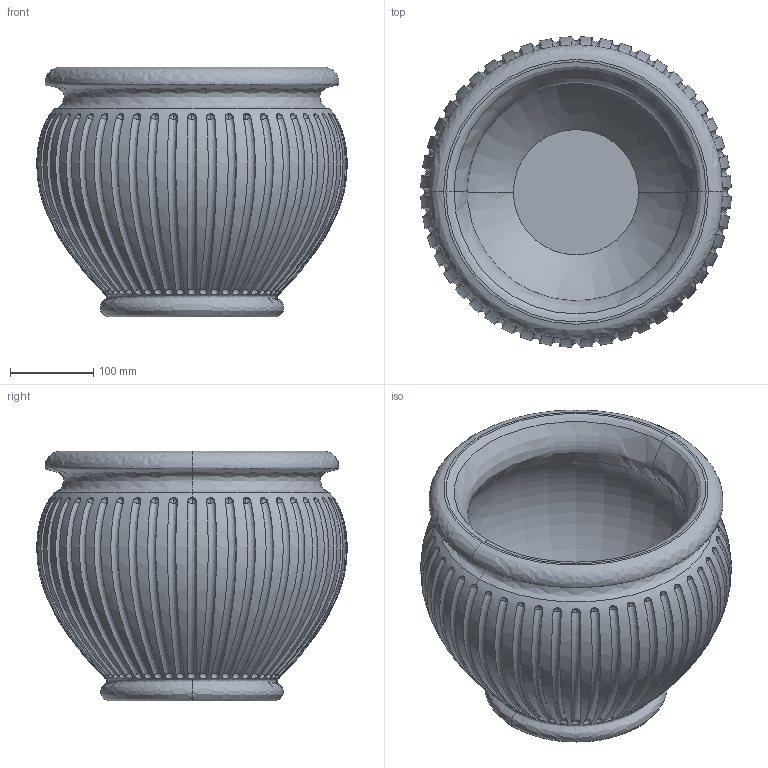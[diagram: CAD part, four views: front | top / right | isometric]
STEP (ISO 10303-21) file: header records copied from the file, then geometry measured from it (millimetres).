
FILE_DESCRIPTION(/* description */ (''),/* implementation_level */ '2;1');
FILE_NAME(/* name */ '35',/* time_stamp */ '2026-07-06T12:01:32+02:00',/* author */ (''),/* organization */ (''),/* preprocessor_version */ 'ST-DEVELOPER v19.2',/* originating_system */ 'Rhino 8.32',/* authorisation */ '');
FILE_SCHEMA (('CONFIG_CONTROL_DESIGN'));
Length unit declared in the file: millimetre
Products named in the file (1): Document
Bounding box: 372.9 x 372.9 x 300 mm (x, y, z)
Volume: 6861651.7 mm3; surface area: 765172.2 mm2
Topology: 1 solids, 1 shells, 205 faces, 460 edges, 304 vertices
Faces by surface type: bspline 202, plane 3
Entity records: 30345 total; most frequent: CARTESIAN_POINT 26569, ORIENTED_EDGE 920, EDGE_CURVE 460, DIRECTION 423, VERTEX_POINT 304, EDGE_LOOP 252, B_SPLINE_CURVE_WITH_KNOTS 242, AXIS2_PLACEMENT_3D 213
